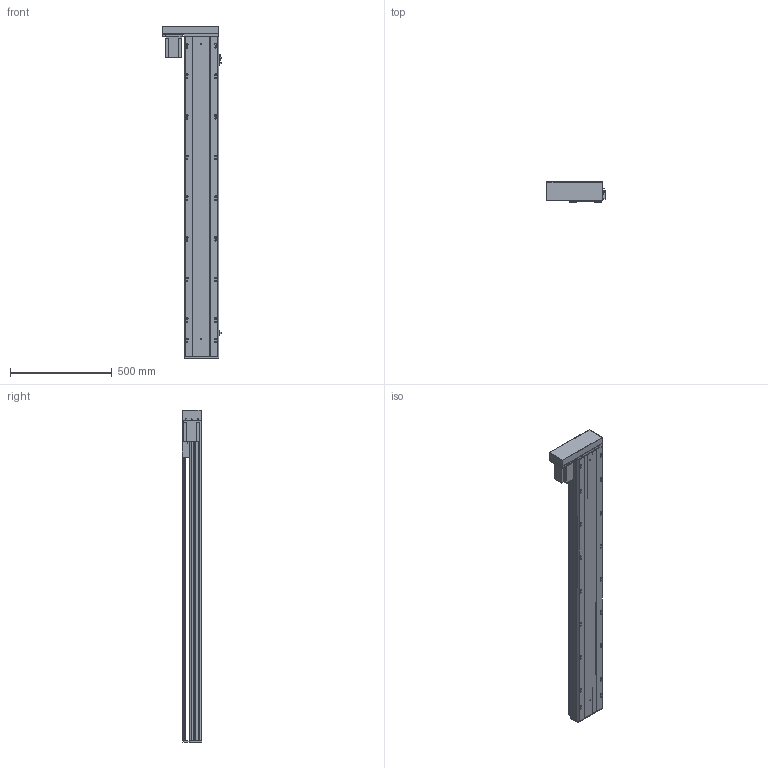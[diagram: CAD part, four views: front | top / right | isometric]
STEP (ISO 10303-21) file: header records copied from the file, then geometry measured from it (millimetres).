
FILE_DESCRIPTION (( 'STEP AP203' ), '1' );
FILE_NAME ('Y170-D10-S1350-BL-P750W.STEP', '2020-01-19T23:16:11', ( '微软用户' ), ( '微软中国' ), 'SwSTEP 2.0', 'SolidWorks 2017', '' );
FILE_SCHEMA (( 'CONFIG_CONTROL_DESIGN' ));
Length unit declared in the file: millimetre
Products named in the file (12): 侂狟750W; EGH20賑輸_蕼偞; Y雄赽釱-耜蚾; Y-BL.BR-俋欶; Y170耜裔--準---; Y170-陔遴奻裔-BR; YD-Y100-135-新外置传感挡片(通用）; Y--BL蟀諉啣-陔遴-; Y100-135俋离換覜ん; Y170-D10-S1350-BL-P750W; 170--掛极-BR; Y170-BL-P750W楊擘啣
Assembly tree (14 placements, depth 2):
  Y170-D10-S1350-BL-P750W
    Y170耜裔--準---
    YD-Y100-135-新外置传感挡片(通用）
    Y100-135俋离換覜ん  x3
    170--掛极-BR
    Y170-BL-P750W楊擘啣
    侂狟750W
    EGH20賑輸_蕼偞  x2
    Y雄赽釱-耜蚾
    Y-BL.BR-俋欶
    Y170-陔遴奻裔-BR
    Y--BL蟀諉啣-陔遴-
Bounding box: 289 x 97 x 1633.5 mm (x, y, z)
Volume: 7383176.1 mm3; surface area: 2596789.3 mm2
Topology: 14 solids, 14 shells, 957 faces, 2738 edges, 1808 vertices
Faces by surface type: cylinder 498, plane 443, cone 16
Entity records: 30810 total; most frequent: CARTESIAN_POINT 5606, DIRECTION 5068, ORIENTED_EDGE 4972, EDGE_CURVE 2486, AXIS2_PLACEMENT_3D 1810, VERTEX_POINT 1652, VECTOR 1448, LINE 1448
